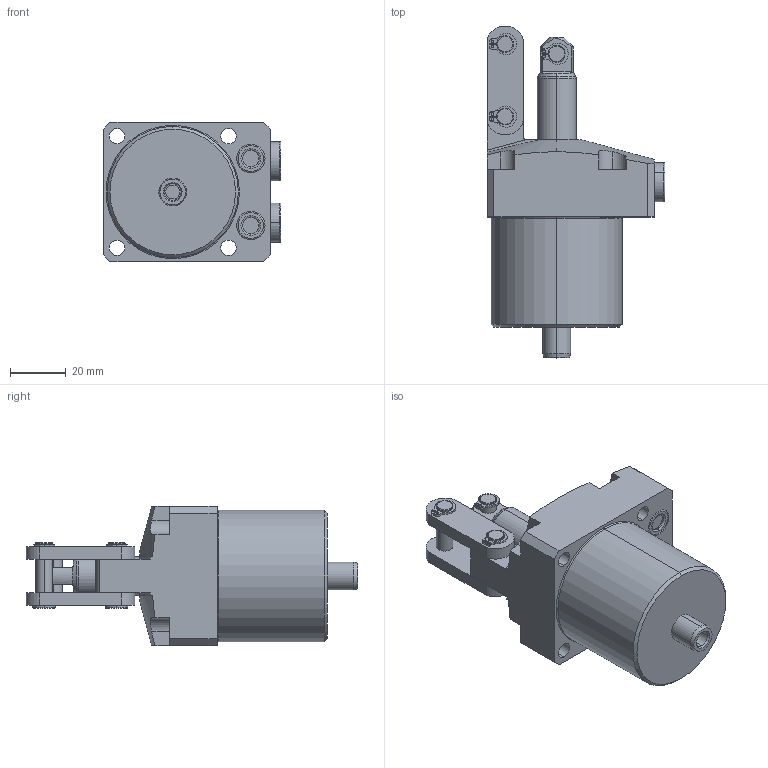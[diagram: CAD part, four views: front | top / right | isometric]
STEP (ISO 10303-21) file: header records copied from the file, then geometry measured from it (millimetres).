
FILE_DESCRIPTION(/* description */ (''),/* implementation_level */ '2;1');
FILE_NAME(/* name */ 'TPC04-FD.stp',/* time_stamp */ '2025-01-05T10:19:23+08:00',/* author */ (''),/* organization */ (''),/* preprocessor_version */ 'ST-DEVELOPER v16.7',/* originating_system */ 'SIEMENS PLM Software NX 12.0',/* authorisation */ '');
FILE_SCHEMA (('AUTOMOTIVE_DESIGN { 1 0 10303 214 3 1 1 1 }'));
Length unit declared in the file: millimetre
Products named in the file (5): TPC04-FD-04; TPC04-FD-03; TPC04-FD-02; TPC04-FD-01; TPC04-FD_stp
Assembly tree (5 placements, depth 2):
  TPC04-FD_stp
    TPC04-FD-01
    TPC04-FD-02
    TPC04-FD-03
    TPC04-FD-04  x2
Bounding box: 63.8 x 118.97 x 50 mm (x, y, z)
Volume: 148997.1 mm3; surface area: 31577.2 mm2
Topology: 5 solids, 7 shells, 303 faces, 717 edges, 456 vertices
Faces by surface type: cylinder 128, plane 114, torus 34, cone 25, extrusion 2
Entity records: 8514 total; most frequent: CARTESIAN_POINT 1625, DIRECTION 1517, ORIENTED_EDGE 1342, EDGE_CURVE 671, AXIS2_PLACEMENT_3D 607, VERTEX_POINT 428, EDGE_LOOP 329, CIRCLE 322
